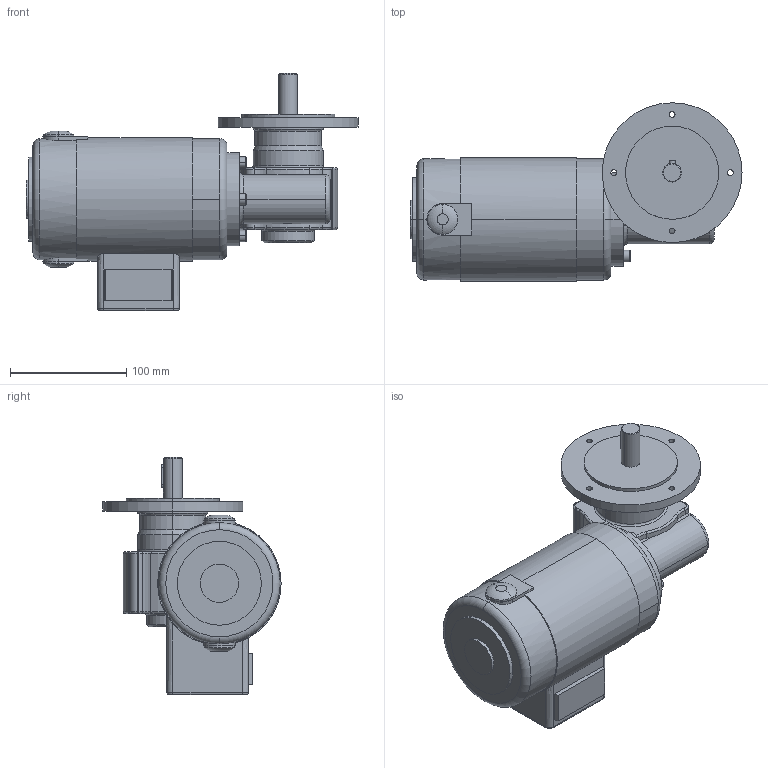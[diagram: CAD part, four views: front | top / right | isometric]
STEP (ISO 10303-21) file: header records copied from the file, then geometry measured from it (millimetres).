
FILE_DESCRIPTION(('OneSpaceDesigner STEP Export'),'2;1');
FILE_NAME('KGG61-62_GF146_H.stp','2008-08-19T11:09:17',(''),(''),'OneSpace Designer STEP processor (Jan. 2003) for AP214(CD)(Solid Model)','OneSpace Designer 12.01D 09-Jul-2004 (C) CoCreate Software GmbH','');
FILE_SCHEMA(('AUTOMOTIVE_DESIGN_CC2 {1 2 10303 214 -1 1 5 1}'));
Length unit declared in the file: millimetre
Products named in the file (2): KGG61-62_GF146_H
Assembly tree (1 placements, depth 2):
  KGG61-62_GF146_H
    KGG61-62_GF146_H
Bounding box: 285 x 153 x 203.5 mm (x, y, z)
Volume: 2366442.3 mm3; surface area: 147291.4 mm2
Topology: 1 solids, 1 shells, 230 faces, 543 edges, 331 vertices
Faces by surface type: cylinder 91, torus 68, plane 46, cone 12, bspline 9, extrusion 4
Entity records: 8876 total; most frequent: CARTESIAN_POINT 4091, ORIENTED_EDGE 1086, DIRECTION 876, EDGE_CURVE 543, AXIS2_PLACEMENT_3D 354, VERTEX_POINT 331, EDGE_LOOP 254, FACE_OUTER_BOUND 230
